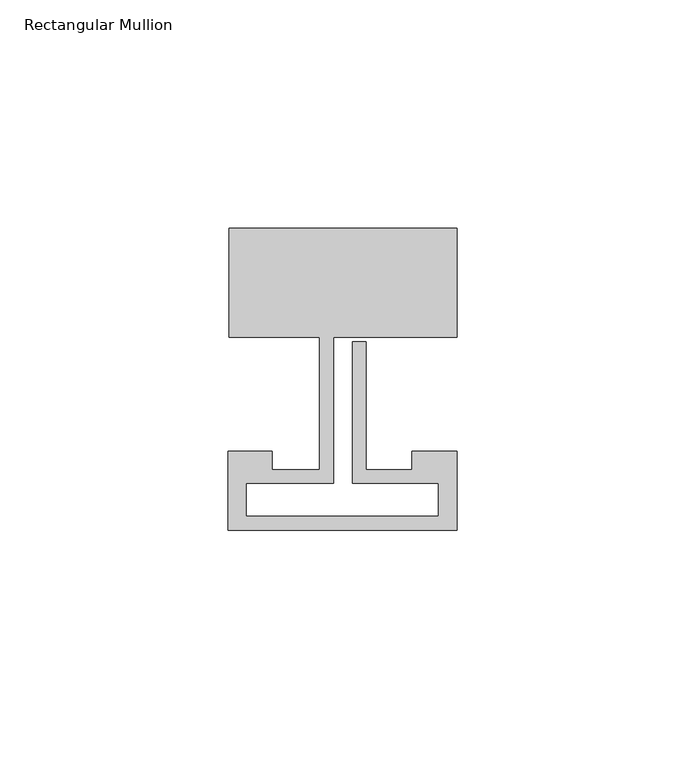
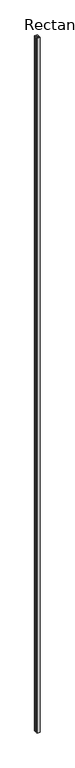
"""IFC4 building model written with IfcOpenShell, lengths in millimetres: member geometry, Rectangular Mullion : Reynaers_CW-50_Mullion-Transom_Horizontal_23.9mm_Facecap-02B."""

from ifc_helpers import new_model, si_unit, frame, origin, place, context, project, spatial, polyline, outline, extrude, source, transform, mapped, element, save


def rectangular_mullion_a2cae820(model_context):
    return source(origin(), model_context, "Body", "SweptSolid", [
        extrude(outline(polyline([(-24.8004059, 36.4), (25.1995941, 36.4), (25.1995941, 12.5), (-1.9004059, 12.5), (-1.9004059, -19.5), (-20.994845, -19.5), (-20.994845, -26.7191338), (21.1995941, -26.7191338), (21.1995941, -19.5), (2.2995941, -19.5), (2.2995941, 11.5), (5.2995941, 11.5), (5.2995941, -16.5), (15.2996495, -16.5), (15.2996495, -12.5), (25.1995941, -12.5), (25.1995941, -29.8), (-24.994845, -29.8), (-24.994845, -12.5), (-15.2996495, -12.5), (-15.2996495, -16.5), (-4.9004059, -16.5), (-4.9004059, 12.5), (-24.8004059, 12.5), (-24.8004059, 36.4)])), frame((0.0, 0.0, -12000.0), z_axis=(0.0, 0.0, 1.0), x_axis=(1.0, 0.0, 0.0)), (0.0, 0.0, 1.0), 12000.0),
    ])


if __name__ == "__main__":
    model = new_model("IFC4")
    model_context = context("Model", 3, world=origin())
    ifc_project = project(units=[si_unit("LENGTHUNIT", "METRE", prefix="MILLI")], contexts=[model_context])
    site = spatial("IfcSite", under=ifc_project)
    building = spatial("IfcBuilding", under=site)
    placement = place(None, origin())
    rectangular_mullion_shape = rectangular_mullion_a2cae820(model_context)
    element("IfcMember", 1, ObjectType="Rectangular Mullion : Reynaers_CW-50_Mullion-Transom_Horizontal_23.9mm_Facecap-02B", at=placement, inside=building, context=model_context, shape_type="MappedRepresentation", body=[
        mapped(rectangular_mullion_shape, transform((0.0, 0.0, 0.0), x_axis=(1.0, 0.0, 0.0), y_axis=(0.0, 1.0, 0.0), z_axis=(0.0, 0.0, 1.0))),
    ])
    save(model, "model.ifc")
